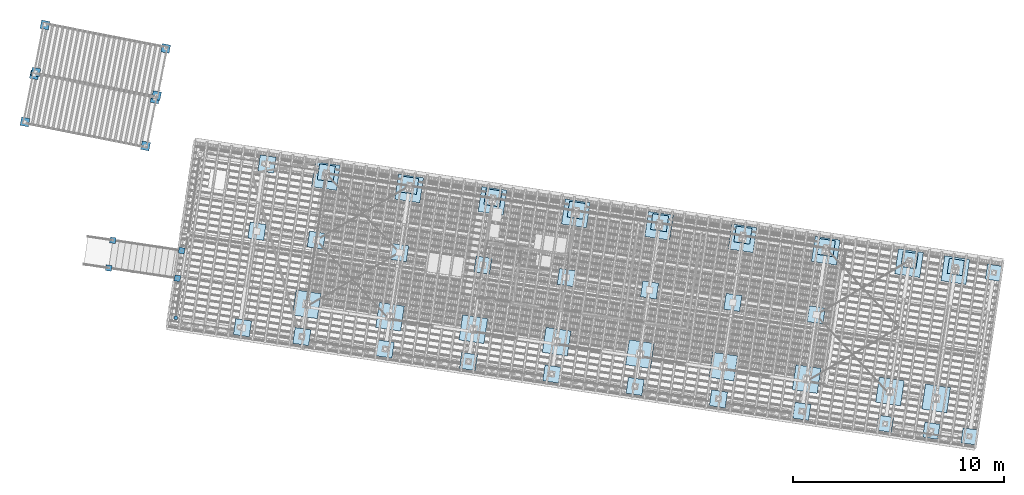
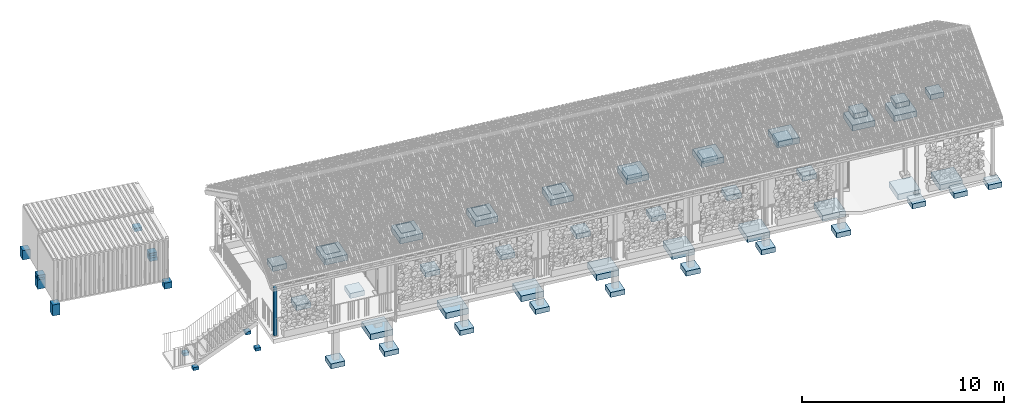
# One storey, part 1 of 131: 60 footings, 1 column, 5 elements without a shape of their own.
"""IFC4 building model written with IfcOpenShell, lengths in metres."""

from ifc_helpers import new_model, si_unit, direction, frame, origin_with_axes, place, context, subcontext, project, spatial, polyline, rectangle, outline, extrude, material, material_profile, profile_set, profile_usage, type_object, element, aggregate, save


model = new_model("IFC4")

# Units and contexts
model_context = context("Model", 3, precision=1e-05, world=origin_with_axes(), true_north=direction((0.0, 1.0)))
body_context = subcontext(model_context, "Body", "Model", "MODEL_VIEW")
ifc_project = project(units=[si_unit("AREAUNIT", "SQUARE_METRE"), si_unit("VOLUMEUNIT", "CUBIC_METRE"), si_unit("LENGTHUNIT", "METRE")], contexts=[model_context])

# Site, building, storey
site_placement = place(None, origin_with_axes())
site = spatial("IfcSite", under=ifc_project, at=site_placement, Name="Lares · Rua das Mercês · artigo 4771")
building_placement = place(site_placement, frame((15.0, 9.7, 14.65), z_axis=(0.0, 0.0, 1.0), x_axis=(0.989015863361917, -0.147809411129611, 0.0)))
building = spatial("IfcBuilding", under=site, at=building_placement, Name="Casa Sobreposta")
storey_placement = place(building_placement, origin_with_axes())
storey = spatial("IfcBuildingStorey", under=building, at=storey_placement, Name="00 · Habitação e estacionamento", Elevation=14.65)

# Footings
ifc_material_1 = material(Name="Betão armado / Stahlbeton", Category="concrete")
footing_1_placement = place(storey_placement, frame((0.0, 0.0, -2.35), z_axis=(0.0, 0.0, 1.0), x_axis=(1.0, 0.0, 0.0)))
element("IfcFooting", 1, at=footing_1_placement, inside=storey, material=ifc_material_1, Name="Casa térrea · sapata", PredefinedType="PAD_FOOTING", context=body_context, shape_type="SweptSolid", body=[
    extrude(outline(polyline([(0.6, -0.48), (0.6, 0.72), (-0.6, 0.72), (-0.6, -0.48), (0.6, -0.48)])), origin_with_axes(), (0.0, 0.0, 1.0), 0.35),
])
footing_2_placement = place(storey_placement, frame((0.0, 0.0, -1.85), z_axis=(0.0, 0.0, 1.0), x_axis=(1.0, 0.0, 0.0)))
element("IfcFooting", 2, at=footing_2_placement, inside=storey, material=ifc_material_1, Name="Casa térrea · sapata", PredefinedType="PAD_FOOTING", context=body_context, shape_type="SweptSolid", body=[
    extrude(outline(polyline([(0.6, 5.68), (0.6, 6.88), (-0.6, 6.88), (-0.6, 5.68), (0.6, 5.68)])), origin_with_axes(), (0.0, 0.0, 1.0), 0.35),
])
footing_3_placement = place(storey_placement, frame((0.0, 0.0, -2.1), z_axis=(0.0, 0.0, 1.0), x_axis=(1.0, 0.0, 0.0)))
element("IfcFooting", 3, at=footing_3_placement, inside=storey, material=ifc_material_1, Name="Casa térrea · sapata", PredefinedType="PAD_FOOTING", context=body_context, shape_type="SweptSolid", body=[
    extrude(outline(polyline([(4.6, -0.48), (4.6, 0.72), (3.4, 0.72), (3.4, -0.48), (4.6, -0.48)])), origin_with_axes(), (0.0, 0.0, 1.0), 0.35),
])
footing_4_placement = place(storey_placement, frame((0.0, 0.0, -1.6), z_axis=(0.0, 0.0, 1.0), x_axis=(1.0, 0.0, 0.0)))
element("IfcFooting", 4, at=footing_4_placement, inside=storey, material=ifc_material_1, Name="Casa térrea · sapata", PredefinedType="PAD_FOOTING", context=body_context, shape_type="SweptSolid", body=[
    extrude(outline(polyline([(4.6, 5.68), (4.6, 6.88), (3.4, 6.88), (3.4, 5.68), (4.6, 5.68)])), origin_with_axes(), (0.0, 0.0, 1.0), 0.35),
])
footing_5_placement = place(storey_placement, frame((0.0, 0.0, -2.1), z_axis=(0.0, 0.0, 1.0), x_axis=(1.0, 0.0, 0.0)))
element("IfcFooting", 5, at=footing_5_placement, inside=storey, material=ifc_material_1, Name="Casa térrea · sapata", PredefinedType="PAD_FOOTING", context=body_context, shape_type="SweptSolid", body=[
    extrude(outline(polyline([(8.6, -0.48), (8.6, 0.72), (7.4, 0.72), (7.4, -0.48), (8.6, -0.48)])), origin_with_axes(), (0.0, 0.0, 1.0), 0.35),
])
footing_6_placement = place(storey_placement, frame((0.0, 0.0, -1.6), z_axis=(0.0, 0.0, 1.0), x_axis=(1.0, 0.0, 0.0)))
element("IfcFooting", 6, at=footing_6_placement, inside=storey, material=ifc_material_1, Name="Casa térrea · sapata", PredefinedType="PAD_FOOTING", context=body_context, shape_type="SweptSolid", body=[
    extrude(outline(polyline([(8.6, 5.68), (8.6, 6.88), (7.4, 6.88), (7.4, 5.68), (8.6, 5.68)])), origin_with_axes(), (0.0, 0.0, 1.0), 0.35),
])
footing_7_placement = place(storey_placement, frame((0.0, 0.0, -1.85), z_axis=(0.0, 0.0, 1.0), x_axis=(1.0, 0.0, 0.0)))
element("IfcFooting", 7, at=footing_7_placement, inside=storey, material=ifc_material_1, Name="Casa térrea · sapata", PredefinedType="PAD_FOOTING", context=body_context, shape_type="SweptSolid", body=[
    extrude(outline(polyline([(12.6, -0.48), (12.6, 0.72), (11.4, 0.72), (11.4, -0.48), (12.6, -0.48)])), origin_with_axes(), (0.0, 0.0, 1.0), 0.35),
])
footing_8_placement = place(storey_placement, frame((0.0, 0.0, -1.35), z_axis=(0.0, 0.0, 1.0), x_axis=(1.0, 0.0, 0.0)))
element("IfcFooting", 8, at=footing_8_placement, inside=storey, material=ifc_material_1, Name="Casa térrea · sapata", PredefinedType="PAD_FOOTING", context=body_context, shape_type="SweptSolid", body=[
    extrude(outline(polyline([(12.6, 5.68), (12.6, 6.88), (11.4, 6.88), (11.4, 5.68), (12.6, 5.68)])), origin_with_axes(), (0.0, 0.0, 1.0), 0.35),
])
footing_9_placement = place(storey_placement, frame((0.0, 0.0, -1.6), z_axis=(0.0, 0.0, 1.0), x_axis=(1.0, 0.0, 0.0)))
element("IfcFooting", 9, at=footing_9_placement, inside=storey, material=ifc_material_1, Name="Casa térrea · sapata", PredefinedType="PAD_FOOTING", context=body_context, shape_type="SweptSolid", body=[
    extrude(outline(polyline([(16.6, -0.48), (16.6, 0.72), (15.4, 0.72), (15.4, -0.48), (16.6, -0.48)])), origin_with_axes(), (0.0, 0.0, 1.0), 0.35),
])
footing_10_placement = place(storey_placement, frame((0.0, 0.0, -1.1), z_axis=(0.0, 0.0, 1.0), x_axis=(1.0, 0.0, 0.0)))
element("IfcFooting", 10, at=footing_10_placement, inside=storey, material=ifc_material_1, Name="Casa térrea · sapata", PredefinedType="PAD_FOOTING", context=body_context, shape_type="SweptSolid", body=[
    extrude(outline(polyline([(16.6, 5.68), (16.6, 6.88), (15.4, 6.88), (15.4, 5.68), (16.6, 5.68)])), origin_with_axes(), (0.0, 0.0, 1.0), 0.35),
])
footing_11_placement = place(storey_placement, frame((0.0, 0.0, -1.6), z_axis=(0.0, 0.0, 1.0), x_axis=(1.0, 0.0, 0.0)))
element("IfcFooting", 11, at=footing_11_placement, inside=storey, material=ifc_material_1, Name="Casa térrea · sapata", PredefinedType="PAD_FOOTING", context=body_context, shape_type="SweptSolid", body=[
    extrude(outline(polyline([(20.6, -0.48), (20.6, 0.72), (19.4, 0.72), (19.4, -0.48), (20.6, -0.48)])), origin_with_axes(), (0.0, 0.0, 1.0), 0.35),
])
footing_12_placement = place(storey_placement, frame((0.0, 0.0, -1.1), z_axis=(0.0, 0.0, 1.0), x_axis=(1.0, 0.0, 0.0)))
element("IfcFooting", 12, at=footing_12_placement, inside=storey, material=ifc_material_1, Name="Casa térrea · sapata", PredefinedType="PAD_FOOTING", context=body_context, shape_type="SweptSolid", body=[
    extrude(outline(polyline([(20.6, 5.68), (20.6, 6.88), (19.4, 6.88), (19.4, 5.68), (20.6, 5.68)])), origin_with_axes(), (0.0, 0.0, 1.0), 0.35),
])
footing_13_placement = place(storey_placement, frame((0.0, 0.0, -1.35), z_axis=(0.0, 0.0, 1.0), x_axis=(1.0, 0.0, 0.0)))
element("IfcFooting", 13, at=footing_13_placement, inside=storey, material=ifc_material_1, Name="Casa térrea · sapata", PredefinedType="PAD_FOOTING", context=body_context, shape_type="SweptSolid", body=[
    extrude(outline(polyline([(24.6, -0.48), (24.6, 0.72), (23.4, 0.72), (23.4, -0.48), (24.6, -0.48)])), origin_with_axes(), (0.0, 0.0, 1.0), 0.35),
])
footing_14_placement = place(storey_placement, frame((0.0, 0.0, -0.95), z_axis=(0.0, 0.0, 1.0), x_axis=(1.0, 0.0, 0.0)))
element("IfcFooting", 14, at=footing_14_placement, inside=storey, material=ifc_material_1, Name="Casa térrea · sapata", PredefinedType="PAD_FOOTING", context=body_context, shape_type="SweptSolid", body=[
    extrude(outline(polyline([(24.6, 5.68), (24.6, 6.88), (23.4, 6.88), (23.4, 5.68), (24.6, 5.68)])), origin_with_axes(), (0.0, 0.0, 1.0), 0.35),
])
footing_15_placement = place(storey_placement, frame((0.0, 0.0, -1.1), z_axis=(0.0, 0.0, 1.0), x_axis=(1.0, 0.0, 0.0)))
element("IfcFooting", 15, at=footing_15_placement, inside=storey, material=ifc_material_1, Name="Casa térrea · sapata", PredefinedType="PAD_FOOTING", context=body_context, shape_type="SweptSolid", body=[
    extrude(outline(polyline([(28.6, -0.48), (28.6, 0.72), (27.4, 0.72), (27.4, -0.48), (28.6, -0.48)])), origin_with_axes(), (0.0, 0.0, 1.0), 0.35),
])
footing_16_placement = place(storey_placement, frame((0.0, 0.0, -0.95), z_axis=(0.0, 0.0, 1.0), x_axis=(1.0, 0.0, 0.0)))
element("IfcFooting", 16, at=footing_16_placement, inside=storey, material=ifc_material_1, Name="Casa térrea · sapata", PredefinedType="PAD_FOOTING", context=body_context, shape_type="SweptSolid", body=[
    extrude(outline(polyline([(28.6, 5.68), (28.6, 6.88), (27.4, 6.88), (27.4, 5.68), (28.6, 5.68)])), origin_with_axes(), (0.0, 0.0, 1.0), 0.35),
])
footing_17_placement = place(storey_placement, frame((0.0, 0.0, -1.1), z_axis=(0.0, 0.0, 1.0), x_axis=(1.0, 0.0, 0.0)))
element("IfcFooting", 17, at=footing_17_placement, inside=storey, material=ifc_material_1, Name="Casa térrea · sapata", PredefinedType="PAD_FOOTING", context=body_context, shape_type="SweptSolid", body=[
    extrude(outline(polyline([(30.82, -0.48), (30.82, 0.72), (29.62, 0.72), (29.62, -0.48), (30.82, -0.48)])), origin_with_axes(), (0.0, 0.0, 1.0), 0.35),
])
footing_18_placement = place(storey_placement, frame((0.0, 0.0, -0.95), z_axis=(0.0, 0.0, 1.0), x_axis=(1.0, 0.0, 0.0)))
element("IfcFooting", 18, at=footing_18_placement, inside=storey, material=ifc_material_1, Name="Casa térrea · sapata", PredefinedType="PAD_FOOTING", context=body_context, shape_type="SweptSolid", body=[
    extrude(outline(polyline([(30.82, 5.68), (30.82, 6.88), (29.62, 6.88), (29.62, 5.68), (30.82, 5.68)])), origin_with_axes(), (0.0, 0.0, 1.0), 0.35),
])

# Stair, footings
stair_placement = place(storey_placement, origin_with_axes())
stair = element("IfcStair", 19, at=stair_placement, inside=storey, Name="Jardim · escada pela fachada poente", PredefinedType="STRAIGHT_RUN_STAIR")
footing_19_placement = place(stair_placement, frame((0.0, 0.0, -2.04767746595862), z_axis=(0.0, 0.0, 1.0), x_axis=(1.0, 0.0, 0.0)))
footing_19 = element("IfcFooting", 20, at=footing_19_placement, material=ifc_material_1, Name="Jardim · apoio", PredefinedType="PAD_FOOTING", context=body_context, shape_type="SweptSolid", body=[
    extrude(outline(polyline([(-6.11, 0.295), (-6.11, 0.575), (-6.39, 0.575), (-6.39, 0.295), (-6.11, 0.295)])), origin_with_axes(), (0.0, 0.0, 1.0), 0.18),
])
footing_20_placement = place(stair_placement, frame((0.0, 0.0, -2.37), z_axis=(0.0, 0.0, 1.0), x_axis=(1.0, 0.0, 0.0)))
footing_20 = element("IfcFooting", 21, at=footing_20_placement, material=ifc_material_1, Name="Jardim · apoio", PredefinedType="PAD_FOOTING", context=body_context, shape_type="SweptSolid", body=[
    extrude(outline(polyline([(-9.41, 0.295), (-9.41, 0.575), (-9.69, 0.575), (-9.69, 0.295), (-9.41, 0.295)])), origin_with_axes(), (0.0, 0.0, 1.0), 0.18),
])
footing_21_placement = place(stair_placement, frame((0.0, 0.0, -1.93553574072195), z_axis=(0.0, 0.0, 1.0), x_axis=(1.0, 0.0, 0.0)))
footing_21 = element("IfcFooting", 22, at=footing_21_placement, material=ifc_material_1, Name="Jardim · apoio", PredefinedType="PAD_FOOTING", context=body_context, shape_type="SweptSolid", body=[
    extrude(outline(polyline([(-6.11, 1.625), (-6.11, 1.905), (-6.39, 1.905), (-6.39, 1.625), (-6.11, 1.625)])), origin_with_axes(), (0.0, 0.0, 1.0), 0.18),
])
footing_22_placement = place(stair_placement, frame((0.0, 0.0, -2.37), z_axis=(0.0, 0.0, 1.0), x_axis=(1.0, 0.0, 0.0)))
footing_22 = element("IfcFooting", 23, at=footing_22_placement, material=ifc_material_1, Name="Jardim · apoio", PredefinedType="PAD_FOOTING", context=body_context, shape_type="SweptSolid", body=[
    extrude(outline(polyline([(-9.41, 1.625), (-9.41, 1.905), (-9.69, 1.905), (-9.69, 1.625), (-9.41, 1.625)])), origin_with_axes(), (0.0, 0.0, 1.0), 0.18),
])
aggregate(stair, [footing_19, footing_20, footing_21, footing_22])

# Assembly, footings
assembly_1_placement = place(storey_placement, origin_with_axes())
assembly_1 = element("IfcElementAssembly", 24, at=assembly_1_placement, inside=storey, Name="Pódio · terraço, casa térrea e cisterna", ObjectType="CISTERN_PODIUM", PredefinedType="USERDEFINED")
footing_23_placement = place(assembly_1_placement, frame((0.0, 0.0, -2.55), z_axis=(0.0, 0.0, 1.0), x_axis=(1.0, 0.0, 0.0)))
footing_23 = element("IfcFooting", 25, at=footing_23_placement, material=ifc_material_1, Name="Pódio suspenso · sapata pontual", PredefinedType="PAD_FOOTING", context=body_context, shape_type="SweptSolid", body=[
    extrude(outline(polyline([(-2.47, -1.81), (-2.47, -1.05), (-3.23, -1.05), (-3.23, -1.81), (-2.47, -1.81)])), origin_with_axes(), (0.0, 0.0, 1.0), 0.3),
])
footing_24_placement = place(assembly_1_placement, frame((0.0, 0.0, -2.05), z_axis=(0.0, 0.0, 1.0), x_axis=(1.0, 0.0, 0.0)))
footing_24 = element("IfcFooting", 26, at=footing_24_placement, material=ifc_material_1, Name="Pódio suspenso · sapata pontual", PredefinedType="PAD_FOOTING", context=body_context, shape_type="SweptSolid", body=[
    extrude(outline(polyline([(-2.47, 2.82), (-2.47, 3.58), (-3.23, 3.58), (-3.23, 2.82), (-2.47, 2.82)])), origin_with_axes(), (0.0, 0.0, 1.0), 0.3),
])
footing_25_placement = place(assembly_1_placement, frame((0.0, 0.0, -1.8), z_axis=(0.0, 0.0, 1.0), x_axis=(1.0, 0.0, 0.0)))
footing_25 = element("IfcFooting", 27, at=footing_25_placement, material=ifc_material_1, Name="Pódio suspenso · sapata pontual", PredefinedType="PAD_FOOTING", context=body_context, shape_type="SweptSolid", body=[
    extrude(outline(polyline([(-2.47, 6.05), (-2.47, 6.81), (-3.23, 6.81), (-3.23, 6.05), (-2.47, 6.05)])), origin_with_axes(), (0.0, 0.0, 1.0), 0.3),
])
footing_26_placement = place(assembly_1_placement, frame((0.0, 0.0, -2.55), z_axis=(0.0, 0.0, 1.0), x_axis=(1.0, 0.0, 0.0)))
footing_26 = element("IfcFooting", 28, at=footing_26_placement, material=ifc_material_1, Name="Pódio suspenso · sapata pontual", PredefinedType="PAD_FOOTING", context=body_context, shape_type="SweptSolid", body=[
    extrude(outline(polyline([(0.38, -1.81), (0.38, -1.05), (-0.38, -1.05), (-0.38, -1.81), (0.38, -1.81)])), origin_with_axes(), (0.0, 0.0, 1.0), 0.3),
])
footing_27_placement = place(assembly_1_placement, frame((0.0, 0.0, -2.05), z_axis=(0.0, 0.0, 1.0), x_axis=(1.0, 0.0, 0.0)))
footing_27 = element("IfcFooting", 29, at=footing_27_placement, material=ifc_material_1, Name="Pódio suspenso · sapata pontual", PredefinedType="PAD_FOOTING", context=body_context, shape_type="SweptSolid", body=[
    extrude(outline(polyline([(0.38, 2.82), (0.38, 3.58), (-0.38, 3.58), (-0.38, 2.82), (0.38, 2.82)])), origin_with_axes(), (0.0, 0.0, 1.0), 0.3),
])
footing_28_placement = place(assembly_1_placement, frame((0.0, 0.0, -1.8), z_axis=(0.0, 0.0, 1.0), x_axis=(1.0, 0.0, 0.0)))
footing_28 = element("IfcFooting", 30, at=footing_28_placement, material=ifc_material_1, Name="Pódio suspenso · sapata pontual", PredefinedType="PAD_FOOTING", context=body_context, shape_type="SweptSolid", body=[
    extrude(outline(polyline([(0.38, 6.05), (0.38, 6.81), (-0.38, 6.81), (-0.38, 6.05), (0.38, 6.05)])), origin_with_axes(), (0.0, 0.0, 1.0), 0.3),
])
footing_29_placement = place(assembly_1_placement, frame((0.0, 0.0, -2.3), z_axis=(0.0, 0.0, 1.0), x_axis=(1.0, 0.0, 0.0)))
footing_29 = element("IfcFooting", 31, at=footing_29_placement, material=ifc_material_1, Name="Pódio suspenso · sapata pontual", PredefinedType="PAD_FOOTING", context=body_context, shape_type="SweptSolid", body=[
    extrude(outline(polyline([(4.38, -1.81), (4.38, -1.05), (3.62, -1.05), (3.62, -1.81), (4.38, -1.81)])), origin_with_axes(), (0.0, 0.0, 1.0), 0.3),
])
footing_30_placement = place(assembly_1_placement, frame((0.0, 0.0, -1.8), z_axis=(0.0, 0.0, 1.0), x_axis=(1.0, 0.0, 0.0)))
footing_30 = element("IfcFooting", 32, at=footing_30_placement, material=ifc_material_1, Name="Pódio suspenso · sapata pontual", PredefinedType="PAD_FOOTING", context=body_context, shape_type="SweptSolid", body=[
    extrude(outline(polyline([(4.38, 2.82), (4.38, 3.58), (3.62, 3.58), (3.62, 2.82), (4.38, 2.82)])), origin_with_axes(), (0.0, 0.0, 1.0), 0.3),
])
footing_31_placement = place(assembly_1_placement, frame((0.0, 0.0, -1.55), z_axis=(0.0, 0.0, 1.0), x_axis=(1.0, 0.0, 0.0)))
footing_31 = element("IfcFooting", 33, at=footing_31_placement, material=ifc_material_1, Name="Pódio suspenso · sapata pontual", PredefinedType="PAD_FOOTING", context=body_context, shape_type="SweptSolid", body=[
    extrude(outline(polyline([(4.38, 6.05), (4.38, 6.81), (3.62, 6.81), (3.62, 6.05), (4.38, 6.05)])), origin_with_axes(), (0.0, 0.0, 1.0), 0.3),
])
footing_32_placement = place(assembly_1_placement, frame((0.0, 0.0, -2.05), z_axis=(0.0, 0.0, 1.0), x_axis=(1.0, 0.0, 0.0)))
footing_32 = element("IfcFooting", 34, at=footing_32_placement, material=ifc_material_1, Name="Pódio suspenso · sapata pontual", PredefinedType="PAD_FOOTING", context=body_context, shape_type="SweptSolid", body=[
    extrude(outline(polyline([(8.38, -1.81), (8.38, -1.05), (7.62, -1.05), (7.62, -1.81), (8.38, -1.81)])), origin_with_axes(), (0.0, 0.0, 1.0), 0.3),
])
footing_33_placement = place(assembly_1_placement, frame((0.0, 0.0, -1.8), z_axis=(0.0, 0.0, 1.0), x_axis=(1.0, 0.0, 0.0)))
footing_33 = element("IfcFooting", 35, at=footing_33_placement, material=ifc_material_1, Name="Pódio suspenso · sapata pontual", PredefinedType="PAD_FOOTING", context=body_context, shape_type="SweptSolid", body=[
    extrude(outline(polyline([(8.38, 2.82), (8.38, 3.58), (7.62, 3.58), (7.62, 2.82), (8.38, 2.82)])), origin_with_axes(), (0.0, 0.0, 1.0), 0.3),
])
footing_34_placement = place(assembly_1_placement, frame((0.0, 0.0, -1.55), z_axis=(0.0, 0.0, 1.0), x_axis=(1.0, 0.0, 0.0)))
footing_34 = element("IfcFooting", 36, at=footing_34_placement, material=ifc_material_1, Name="Pódio suspenso · sapata pontual", PredefinedType="PAD_FOOTING", context=body_context, shape_type="SweptSolid", body=[
    extrude(outline(polyline([(8.38, 6.05), (8.38, 6.81), (7.62, 6.81), (7.62, 6.05), (8.38, 6.05)])), origin_with_axes(), (0.0, 0.0, 1.0), 0.3),
])
footing_35_placement = place(assembly_1_placement, frame((0.0, 0.0, -2.05), z_axis=(0.0, 0.0, 1.0), x_axis=(1.0, 0.0, 0.0)))
footing_35 = element("IfcFooting", 37, at=footing_35_placement, material=ifc_material_1, Name="Pódio suspenso · sapata pontual", PredefinedType="PAD_FOOTING", context=body_context, shape_type="SweptSolid", body=[
    extrude(outline(polyline([(12.38, -1.81), (12.38, -1.05), (11.62, -1.05), (11.62, -1.81), (12.38, -1.81)])), origin_with_axes(), (0.0, 0.0, 1.0), 0.3),
])
footing_36_placement = place(assembly_1_placement, frame((0.0, 0.0, -1.55), z_axis=(0.0, 0.0, 1.0), x_axis=(1.0, 0.0, 0.0)))
footing_36 = element("IfcFooting", 38, at=footing_36_placement, material=ifc_material_1, Name="Pódio suspenso · sapata pontual", PredefinedType="PAD_FOOTING", context=body_context, shape_type="SweptSolid", body=[
    extrude(outline(polyline([(12.38, 2.82), (12.38, 3.58), (11.62, 3.58), (11.62, 2.82), (12.38, 2.82)])), origin_with_axes(), (0.0, 0.0, 1.0), 0.3),
])
footing_37_placement = place(assembly_1_placement, frame((0.0, 0.0, -1.3), z_axis=(0.0, 0.0, 1.0), x_axis=(1.0, 0.0, 0.0)))
footing_37 = element("IfcFooting", 39, at=footing_37_placement, material=ifc_material_1, Name="Pódio suspenso · sapata pontual", PredefinedType="PAD_FOOTING", context=body_context, shape_type="SweptSolid", body=[
    extrude(outline(polyline([(12.38, 6.05), (12.38, 6.81), (11.62, 6.81), (11.62, 6.05), (12.38, 6.05)])), origin_with_axes(), (0.0, 0.0, 1.0), 0.3),
])
footing_38_placement = place(assembly_1_placement, frame((0.0, 0.0, -1.8), z_axis=(0.0, 0.0, 1.0), x_axis=(1.0, 0.0, 0.0)))
footing_38 = element("IfcFooting", 40, at=footing_38_placement, material=ifc_material_1, Name="Pódio suspenso · sapata pontual", PredefinedType="PAD_FOOTING", context=body_context, shape_type="SweptSolid", body=[
    extrude(outline(polyline([(16.38, -1.81), (16.38, -1.05), (15.62, -1.05), (15.62, -1.81), (16.38, -1.81)])), origin_with_axes(), (0.0, 0.0, 1.0), 0.3),
])
footing_39_placement = place(assembly_1_placement, frame((0.0, 0.0, -1.55), z_axis=(0.0, 0.0, 1.0), x_axis=(1.0, 0.0, 0.0)))
footing_39 = element("IfcFooting", 41, at=footing_39_placement, material=ifc_material_1, Name="Pódio suspenso · sapata pontual", PredefinedType="PAD_FOOTING", context=body_context, shape_type="SweptSolid", body=[
    extrude(outline(polyline([(16.38, 2.82), (16.38, 3.58), (15.62, 3.58), (15.62, 2.82), (16.38, 2.82)])), origin_with_axes(), (0.0, 0.0, 1.0), 0.3),
])
footing_40_placement = place(assembly_1_placement, frame((0.0, 0.0, -1.15), z_axis=(0.0, 0.0, 1.0), x_axis=(1.0, 0.0, 0.0)))
footing_40 = element("IfcFooting", 42, at=footing_40_placement, material=ifc_material_1, Name="Pódio suspenso · sapata pontual", PredefinedType="PAD_FOOTING", context=body_context, shape_type="SweptSolid", body=[
    extrude(outline(polyline([(16.38, 6.05), (16.38, 6.81), (15.62, 6.81), (15.62, 6.05), (16.38, 6.05)])), origin_with_axes(), (0.0, 0.0, 1.0), 0.3),
])
footing_41_placement = place(assembly_1_placement, frame((0.0, 0.0, -1.55), z_axis=(0.0, 0.0, 1.0), x_axis=(1.0, 0.0, 0.0)))
footing_41 = element("IfcFooting", 43, at=footing_41_placement, material=ifc_material_1, Name="Pódio suspenso · sapata pontual", PredefinedType="PAD_FOOTING", context=body_context, shape_type="SweptSolid", body=[
    extrude(outline(polyline([(20.38, -1.81), (20.38, -1.05), (19.62, -1.05), (19.62, -1.81), (20.38, -1.81)])), origin_with_axes(), (0.0, 0.0, 1.0), 0.3),
])
footing_42_placement = place(assembly_1_placement, frame((0.0, 0.0, -1.3), z_axis=(0.0, 0.0, 1.0), x_axis=(1.0, 0.0, 0.0)))
footing_42 = element("IfcFooting", 44, at=footing_42_placement, material=ifc_material_1, Name="Pódio suspenso · sapata pontual", PredefinedType="PAD_FOOTING", context=body_context, shape_type="SweptSolid", body=[
    extrude(outline(polyline([(20.38, 2.82), (20.38, 3.58), (19.62, 3.58), (19.62, 2.82), (20.38, 2.82)])), origin_with_axes(), (0.0, 0.0, 1.0), 0.3),
])
footing_43_placement = place(assembly_1_placement, frame((0.0, 0.0, -1.15), z_axis=(0.0, 0.0, 1.0), x_axis=(1.0, 0.0, 0.0)))
footing_43 = element("IfcFooting", 45, at=footing_43_placement, material=ifc_material_1, Name="Pódio suspenso · sapata pontual", PredefinedType="PAD_FOOTING", context=body_context, shape_type="SweptSolid", body=[
    extrude(outline(polyline([(20.38, 6.05), (20.38, 6.81), (19.62, 6.81), (19.62, 6.05), (20.38, 6.05)])), origin_with_axes(), (0.0, 0.0, 1.0), 0.3),
])
footing_44_placement = place(assembly_1_placement, frame((0.0, 0.0, -1.55), z_axis=(0.0, 0.0, 1.0), x_axis=(1.0, 0.0, 0.0)))
footing_44 = element("IfcFooting", 46, at=footing_44_placement, material=ifc_material_1, Name="Pódio suspenso · sapata pontual", PredefinedType="PAD_FOOTING", context=body_context, shape_type="SweptSolid", body=[
    extrude(outline(polyline([(24.38, -1.81), (24.38, -1.05), (23.62, -1.05), (23.62, -1.81), (24.38, -1.81)])), origin_with_axes(), (0.0, 0.0, 1.0), 0.3),
])
footing_45_placement = place(assembly_1_placement, frame((0.0, 0.0, -1.15), z_axis=(0.0, 0.0, 1.0), x_axis=(1.0, 0.0, 0.0)))
footing_45 = element("IfcFooting", 47, at=footing_45_placement, material=ifc_material_1, Name="Pódio suspenso · sapata pontual", PredefinedType="PAD_FOOTING", context=body_context, shape_type="SweptSolid", body=[
    extrude(outline(polyline([(24.38, 2.82), (24.38, 3.58), (23.62, 3.58), (23.62, 2.82), (24.38, 2.82)])), origin_with_axes(), (0.0, 0.0, 1.0), 0.3),
])
footing_46_placement = place(assembly_1_placement, frame((0.0, 0.0, -1.15), z_axis=(0.0, 0.0, 1.0), x_axis=(1.0, 0.0, 0.0)))
footing_46 = element("IfcFooting", 48, at=footing_46_placement, material=ifc_material_1, Name="Pódio suspenso · sapata pontual", PredefinedType="PAD_FOOTING", context=body_context, shape_type="SweptSolid", body=[
    extrude(outline(polyline([(24.38, 6.05), (24.38, 6.81), (23.62, 6.81), (23.62, 6.05), (24.38, 6.05)])), origin_with_axes(), (0.0, 0.0, 1.0), 0.3),
])
aggregate(assembly_1, [footing_23, footing_24, footing_25, footing_26, footing_27, footing_28, footing_29, footing_30, footing_31, footing_32, footing_33, footing_34, footing_35, footing_36, footing_37, footing_38, footing_39, footing_40, footing_41, footing_42, footing_43, footing_44, footing_45, footing_46])

assembly_2_placement = place(storey_placement, origin_with_axes())
assembly_2 = element("IfcElementAssembly", 49, at=assembly_2_placement, inside=storey, Name="Varanda coberta · continuação integral da cobertura", ObjectType="COVERED_PODIUM_BALCONY", PredefinedType="USERDEFINED")
footing_47_placement = place(assembly_2_placement, frame((0.0, 0.0, -0.84005), z_axis=(0.0, 0.0, 1.0), x_axis=(1.0, 0.0, 0.0)))
footing_47 = element("IfcFooting", 50, at=footing_47_placement, material=ifc_material_1, Name="Varanda coberta · sapata no estacionamento", PredefinedType="PAD_FOOTING", context=body_context, shape_type="SweptSolid", body=[
    extrude(outline(polyline([(28.36, -1.79), (28.36, -1.07), (27.64, -1.07), (27.64, -1.79), (28.36, -1.79)])), origin_with_axes(), (0.0, 0.0, 1.0), 0.3),
])
footing_48_placement = place(assembly_2_placement, frame((0.0, 0.0, -0.525649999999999), z_axis=(0.0, 0.0, 1.0), x_axis=(1.0, 0.0, 0.0)))
footing_48 = element("IfcFooting", 51, at=footing_48_placement, material=ifc_material_1, Name="Varanda coberta · sapata no estacionamento", PredefinedType="PAD_FOOTING", context=body_context, shape_type="SweptSolid", body=[
    extrude(outline(polyline([(28.36, 6.07), (28.36, 6.79), (27.64, 6.79), (27.64, 6.07), (28.36, 6.07)])), origin_with_axes(), (0.0, 0.0, 1.0), 0.3),
])
footing_49_placement = place(assembly_2_placement, frame((0.0, 0.0, -0.78455), z_axis=(0.0, 0.0, 1.0), x_axis=(1.0, 0.0, 0.0)))
footing_49 = element("IfcFooting", 52, at=footing_49_placement, material=ifc_material_1, Name="Varanda coberta · sapata no estacionamento", PredefinedType="PAD_FOOTING", context=body_context, shape_type="SweptSolid", body=[
    extrude(outline(polyline([(30.58, -1.79), (30.58, -1.07), (29.86, -1.07), (29.86, -1.79), (30.58, -1.79)])), origin_with_axes(), (0.0, 0.0, 1.0), 0.3),
])
footing_50_placement = place(assembly_2_placement, frame((0.0, 0.0, -0.470149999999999), z_axis=(0.0, 0.0, 1.0), x_axis=(1.0, 0.0, 0.0)))
footing_50 = element("IfcFooting", 53, at=footing_50_placement, material=ifc_material_1, Name="Varanda coberta · sapata no estacionamento", PredefinedType="PAD_FOOTING", context=body_context, shape_type="SweptSolid", body=[
    extrude(outline(polyline([(30.58, 6.07), (30.58, 6.79), (29.86, 6.79), (29.86, 6.07), (30.58, 6.07)])), origin_with_axes(), (0.0, 0.0, 1.0), 0.3),
])
footing_51_placement = place(assembly_2_placement, frame((0.0, 0.0, -0.7388), z_axis=(0.0, 0.0, 1.0), x_axis=(1.0, 0.0, 0.0)))
footing_51 = element("IfcFooting", 54, at=footing_51_placement, material=ifc_material_1, Name="Varanda coberta · sapata no estacionamento", PredefinedType="PAD_FOOTING", context=body_context, shape_type="SweptSolid", body=[
    extrude(outline(polyline([(32.41, -1.79), (32.41, -1.07), (31.69, -1.07), (31.69, -1.79), (32.41, -1.79)])), origin_with_axes(), (0.0, 0.0, 1.0), 0.3),
])
footing_52_placement = place(assembly_2_placement, frame((0.0, 0.0, -0.424399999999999), z_axis=(0.0, 0.0, 1.0), x_axis=(1.0, 0.0, 0.0)))
footing_52 = element("IfcFooting", 55, at=footing_52_placement, material=ifc_material_1, Name="Varanda coberta · sapata no estacionamento", PredefinedType="PAD_FOOTING", context=body_context, shape_type="SweptSolid", body=[
    extrude(outline(polyline([(32.41, 6.07), (32.41, 6.79), (31.69, 6.79), (31.69, 6.07), (32.41, 6.07)])), origin_with_axes(), (0.0, 0.0, 1.0), 0.3),
])

assembly_3_placement = place(storey_placement, frame((-14.4335953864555, 9.04888612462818, 0.0), z_axis=(0.0, 0.0, 1.0), x_axis=(0.999032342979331, -0.0439815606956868, 0.0)))
assembly_3 = element("IfcElementAssembly", 56, at=assembly_3_placement, inside=storey, Name="Contentor existente 1 · 6 m", ObjectType="EXISTING_SHIPPING_CONTAINER", PredefinedType="USERDEFINED")
footing_53_placement = place(assembly_3_placement, frame((0.0, 0.0, -1.72368011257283), z_axis=(0.0, 0.0, 1.0), x_axis=(1.0, 0.0, 0.0)))
footing_53 = element("IfcFooting", 57, at=footing_53_placement, material=ifc_material_1, Name="Contentor · apoio existente indicativo", PredefinedType="PAD_FOOTING", context=body_context, shape_type="SweptSolid", body=[
    extrude(outline(polyline([(0.28, -0.12), (0.28, 0.28), (-0.12, 0.28), (-0.12, -0.12), (0.28, -0.12)])), origin_with_axes(), (0.0, 0.0, 1.0), 0.710538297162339),
])
footing_54_placement = place(assembly_3_placement, frame((0.0, 0.0, -1.5812660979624), z_axis=(0.0, 0.0, 1.0), x_axis=(1.0, 0.0, 0.0)))
footing_54 = element("IfcFooting", 58, at=footing_54_placement, material=ifc_material_1, Name="Contentor · apoio existente indicativo", PredefinedType="PAD_FOOTING", context=body_context, shape_type="SweptSolid", body=[
    extrude(outline(polyline([(0.28, 2.16), (0.28, 2.56), (-0.12, 2.56), (-0.12, 2.16), (0.28, 2.16)])), origin_with_axes(), (0.0, 0.0, 1.0), 0.568124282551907),
])
footing_55_placement = place(assembly_3_placement, frame((0.0, 0.0, -1.36548809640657), z_axis=(0.0, 0.0, 1.0), x_axis=(1.0, 0.0, 0.0)))
footing_55 = element("IfcFooting", 59, at=footing_55_placement, material=ifc_material_1, Name="Contentor · apoio existente indicativo", PredefinedType="PAD_FOOTING", context=body_context, shape_type="SweptSolid", body=[
    extrude(outline(polyline([(6.12, -0.12), (6.12, 0.28), (5.72, 0.28), (5.72, -0.12), (6.12, -0.12)])), origin_with_axes(), (0.0, 0.0, 1.0), 0.352346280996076),
])
footing_56_placement = place(assembly_3_placement, frame((0.0, 0.0, -1.22298332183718), z_axis=(0.0, 0.0, 1.0), x_axis=(1.0, 0.0, 0.0)))
footing_56 = element("IfcFooting", 60, at=footing_56_placement, material=ifc_material_1, Name="Contentor · apoio existente indicativo", PredefinedType="PAD_FOOTING", context=body_context, shape_type="SweptSolid", body=[
    extrude(outline(polyline([(6.12, 2.16), (6.12, 2.56), (5.72, 2.56), (5.72, 2.16), (6.12, 2.16)])), origin_with_axes(), (0.0, 0.0, 1.0), 0.209841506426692),
])
aggregate(assembly_3, [footing_53, footing_54, footing_55, footing_56])

assembly_4_placement = place(storey_placement, frame((-14.5932944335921, 6.63122214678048, 0.0), z_axis=(0.0, 0.0, 1.0), x_axis=(0.998832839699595, -0.0483007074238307, 0.0)))
assembly_4 = element("IfcElementAssembly", 61, at=assembly_4_placement, inside=storey, Name="Contentor existente 2 · 6 m", ObjectType="EXISTING_SHIPPING_CONTAINER", PredefinedType="USERDEFINED")
footing_57_placement = place(assembly_4_placement, frame((0.0, 0.0, -1.83544963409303), z_axis=(0.0, 0.0, 1.0), x_axis=(1.0, 0.0, 0.0)))
footing_57 = element("IfcFooting", 62, at=footing_57_placement, material=ifc_material_1, Name="Contentor · apoio existente indicativo", PredefinedType="PAD_FOOTING", context=body_context, shape_type="SweptSolid", body=[
    extrude(outline(polyline([(0.28, -0.12), (0.28, 0.28), (-0.12, 0.28), (-0.12, -0.12), (0.28, -0.12)])), origin_with_axes(), (0.0, 0.0, 1.0), 0.666697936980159),
])
footing_58_placement = place(assembly_4_placement, frame((0.0, 0.0, -1.73526491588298), z_axis=(0.0, 0.0, 1.0), x_axis=(1.0, 0.0, 0.0)))
footing_58 = element("IfcFooting", 63, at=footing_58_placement, material=ifc_material_1, Name="Contentor · apoio existente indicativo", PredefinedType="PAD_FOOTING", context=body_context, shape_type="SweptSolid", body=[
    extrude(outline(polyline([(0.28, 2.16), (0.28, 2.56), (-0.12, 2.56), (-0.12, 2.16), (0.28, 2.16)])), origin_with_axes(), (0.0, 0.0, 1.0), 0.566513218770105),
])
footing_59_placement = place(assembly_4_placement, frame((0.0, 0.0, -1.53197749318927), z_axis=(0.0, 0.0, 1.0), x_axis=(1.0, 0.0, 0.0)))
footing_59 = element("IfcFooting", 64, at=footing_59_placement, material=ifc_material_1, Name="Contentor · apoio existente indicativo", PredefinedType="PAD_FOOTING", context=body_context, shape_type="SweptSolid", body=[
    extrude(outline(polyline([(6.12, -0.12), (6.12, 0.28), (5.72, 0.28), (5.72, -0.12), (6.12, -0.12)])), origin_with_axes(), (0.0, 0.0, 1.0), 0.363225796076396),
])
footing_60_placement = place(assembly_4_placement, frame((0.0, 0.0, -1.37859242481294), z_axis=(0.0, 0.0, 1.0), x_axis=(1.0, 0.0, 0.0)))
footing_60 = element("IfcFooting", 65, at=footing_60_placement, material=ifc_material_1, Name="Contentor · apoio existente indicativo", PredefinedType="PAD_FOOTING", context=body_context, shape_type="SweptSolid", body=[
    extrude(outline(polyline([(6.12, 2.16), (6.12, 2.56), (5.72, 2.56), (5.72, 2.16), (6.12, 2.16)])), origin_with_axes(), (0.0, 0.0, 1.0), 0.209840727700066),
])
aggregate(assembly_4, [footing_57, footing_58, footing_59, footing_60])

# Column
ifc_material_2 = material(Name="Madeira / Bauholz", Category="wood")
ifc_material_profile = material_profile(ifc_material_2, rectangle(XDim=0.16, YDim=0.16))
ifc_profile_set = profile_set([ifc_material_profile], Name="TIMBER0.160x0.160")
ifc_profile_usage = profile_usage(ifc_profile_set)
column_type = type_object("IfcColumnType", Name="TIMBER0.160x0.160 / timber", PredefinedType="NOTDEFINED", material=ifc_profile_set)
column_placement = place(assembly_2_placement, frame((-6.05, -1.43, -0.015), z_axis=(0.0, 0.0, 1.0), x_axis=(1.0, 0.0, 0.0)))
column = element("IfcColumn", 66, at=column_placement, type_object=column_type, material=ifc_profile_usage, Name="Varanda coberta · pilar", context=body_context, shape_type="SweptSolid", body=[
    extrude(rectangle(XDim=0.16, YDim=0.16), origin_with_axes(), (0.0, 0.0, 1.0), 2.905),
])

aggregate(assembly_2, [column, footing_47, footing_48, footing_49, footing_50, footing_51, footing_52])

save(model, "model.ifc")
